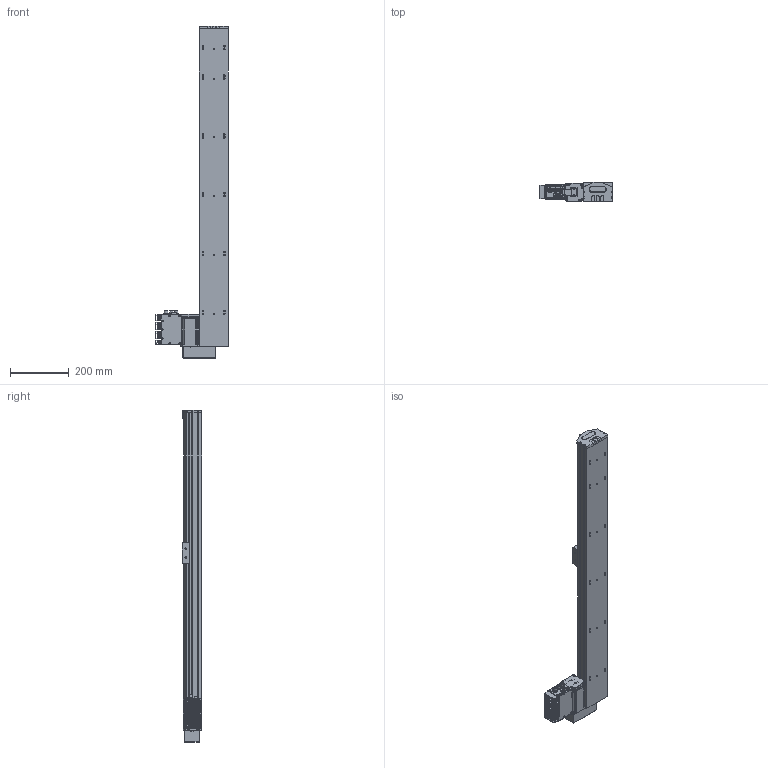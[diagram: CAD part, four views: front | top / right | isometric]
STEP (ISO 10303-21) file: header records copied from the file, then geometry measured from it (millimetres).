
FILE_DESCRIPTION (( 'STEP AP203' ), '1' );
FILE_NAME ('S10 TSN BL S900.STEP', '2012-09-03T09:52:57', ( 'Conseil Régional Haute-Normandie' ), ( 'Conseil Régional Haute-Normandie' ), 'SwSTEP 2.0', 'SolidWorks 2010', '' );
FILE_SCHEMA (( 'CONFIG_CONTROL_DESIGN' ));
Length unit declared in the file: millimetre
Products named in the file (25): Moteur 60BLDC90A_3; T_X2_00F4_X0_le contre le moteur_5; Assem1_7; Couvercle_3; S10 TSN BL S900; axe1087; BU41 Carte Alimentation P05_3; Colonnette_3; BU45 Carte d''axe A11_5; T_X2_00F4_X0_le fond_3; Connecteur rond D10 3cts_5; Connecteur rond D12 4cts_5; Sub D 9cts 90_X2_00B_X0__3; Radiateur profil_X2_00E9_X0_ 100x25_3; Colonnette ronde_3; T_X2_00F4_X0_le Arri_X2_00E8_X0_re_5; T_X2_00F4_X0_le lat_X2_00E9_X0_rale_5; Vis TF 3 torkx_1_1; palette tbn; renvoi LH_Default; piece_plastique remplie_Default; embout_modifié; remplir_Default; Pièce2_Default; Vis TF 3 torkx
Assembly tree (55 placements, depth 3):
  S10 TSN BL S900
    axe1087
    Vis TF 3 torkx  x7
    Assem1_7
      Vis TF 3 torkx_1_1  x21
      Colonnette_3  x2
      T_X2_00F4_X0_le Arri_X2_00E8_X0_re_5
      T_X2_00F4_X0_le contre le moteur_5
      Moteur 60BLDC90A_3
      Sub D 9cts 90_X2_00B_X0__3
      Couvercle_3
      BU41 Carte Alimentation P05_3
      T_X2_00F4_X0_le lat_X2_00E9_X0_rale_5  x2
      Connecteur rond D10 3cts_5  x2
      Radiateur profil_X2_00E9_X0_ 100x25_3
      Colonnette ronde_3
      BU45 Carte d''axe A11_5
      T_X2_00F4_X0_le fond_3
      Connecteur rond D12 4cts_5
    renvoi LH_Default
    palette tbn
    piece_plastique remplie_Default
      remplir_Default  x3
      embout_modifié
      Pièce2_Default
Bounding box: 248 x 66.75 x 1129.5 mm (x, y, z)
Volume: 6305997.1 mm3; surface area: 779204.6 mm2
Topology: 53 solids, 53 shells, 1982 faces, 5040 edges, 3286 vertices
Faces by surface type: plane 930, cylinder 889, cone 156, bspline 4, torus 3
Entity records: 39143 total; most frequent: CARTESIAN_POINT 6608, DIRECTION 6383, ORIENTED_EDGE 5788, EDGE_CURVE 2894, AXIS2_PLACEMENT_3D 2350, VERTEX_POINT 1898, VECTOR 1683, LINE 1683
